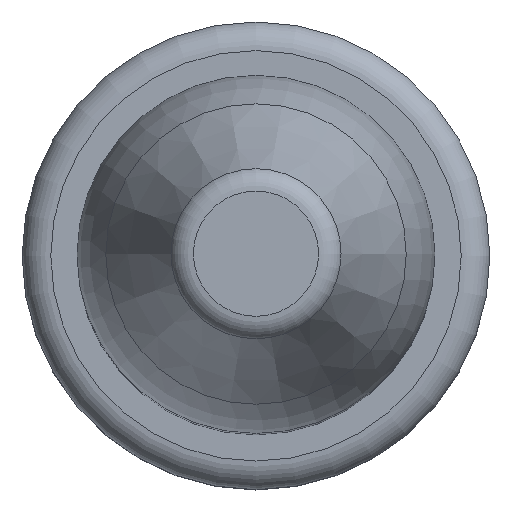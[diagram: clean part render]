
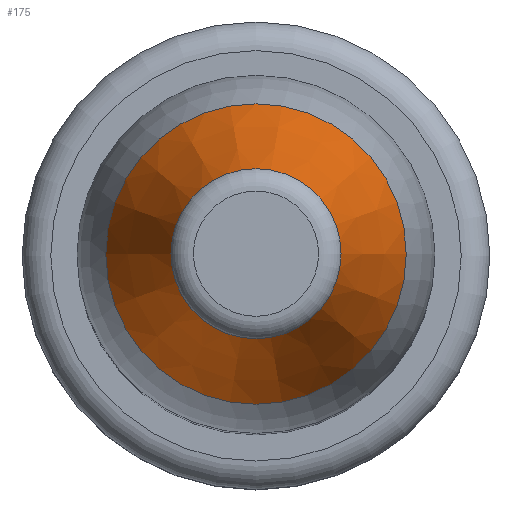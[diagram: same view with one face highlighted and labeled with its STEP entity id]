
A CAD part, top view. The second image highlights one B-rep face of the part: STEP entity #175.
In plain terms, the highlighted conical face has half-angle 20 degrees and reference radius 3.997 mm.
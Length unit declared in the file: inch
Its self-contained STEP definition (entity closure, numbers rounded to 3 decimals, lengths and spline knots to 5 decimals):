
#7 = EDGE_LOOP ( 'NONE', ( #141 ) ) ;
#11 = DIRECTION ( 'NONE',  ( -1., 0., 0. ) ) ;
#21 = EDGE_CURVE ( 'NONE', #75, #75, #195, .T. ) ;
#30 = FACE_OUTER_BOUND ( 'NONE', #7, .T. ) ;
#42 = AXIS2_PLACEMENT_3D ( 'NONE', #47, #184, #116 ) ;
#47 = CARTESIAN_POINT ( 'NONE',  ( 0., 0., 1.43355 ) ) ;
#56 = CONICAL_SURFACE ( 'NONE', #88, 0.15735, 0.349 ) ;
#75 = VERTEX_POINT ( 'NONE', #213 ) ;
#86 = ORIENTED_EDGE ( 'NONE', *, *, #181, .F. ) ;
#88 = AXIS2_PLACEMENT_3D ( 'NONE', #100, #161, #11 ) ;
#100 = CARTESIAN_POINT ( 'NONE',  ( 0., 0., 1.24601 ) ) ;
#104 = VERTEX_POINT ( 'NONE', #168 ) ;
#116 = DIRECTION ( 'NONE',  ( 1., 0., 0. ) ) ;
#119 = AXIS2_PLACEMENT_3D ( 'NONE', #159, #221, #129 ) ;
#129 = DIRECTION ( 'NONE',  ( 1., 0., 0. ) ) ;
#135 = CIRCLE ( 'NONE', #42, 0.08909 ) ;
#141 = ORIENTED_EDGE ( 'NONE', *, *, #21, .T. ) ;
#159 = CARTESIAN_POINT ( 'NONE',  ( 0., 0., 1.24601 ) ) ;
#161 = DIRECTION ( 'NONE',  ( 0., 0., -1. ) ) ;
#168 = CARTESIAN_POINT ( 'NONE',  ( 0.08909, 0., 1.43355 ) ) ;
#175 = ADVANCED_FACE ( 'NONE', ( #182, #30 ), #56, .T. ) ;
#181 = EDGE_CURVE ( 'NONE', #104, #104, #135, .T. ) ;
#182 = FACE_BOUND ( 'NONE', #217, .T. ) ;
#184 = DIRECTION ( 'NONE',  ( 0., 0., 1. ) ) ;
#195 = CIRCLE ( 'NONE', #119, 0.15735 ) ;
#213 = CARTESIAN_POINT ( 'NONE',  ( 0.15735, 0., 1.24601 ) ) ;
#217 = EDGE_LOOP ( 'NONE', ( #86 ) ) ;
#221 = DIRECTION ( 'NONE',  ( 0., 0., 1. ) ) ;
